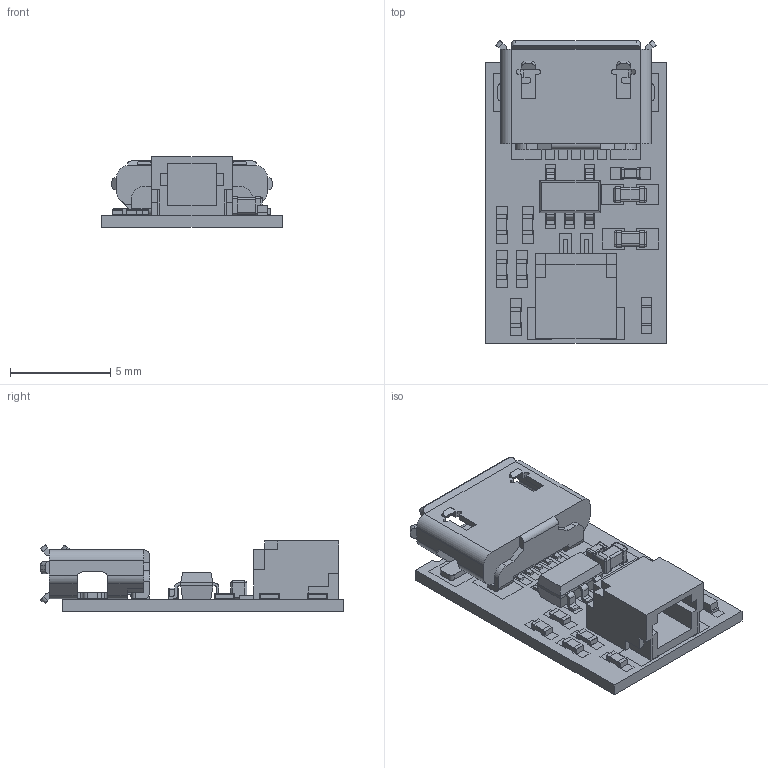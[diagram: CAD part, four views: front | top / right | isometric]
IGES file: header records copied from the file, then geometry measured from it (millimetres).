
Global section: file name: Filename.iges; native system: Open CASCADE 7.4; preprocessor: Open CASCADE IGES processor 7.4; date: 20200828.022145; units: millimetre
Bounding box: 9 x 15.07 x 3.5 mm (x, y, z)
Surface area: 1178.4 mm2 (no closed solid volume)
Topology: 0 solids, 0 shells, 1214 faces, 6360 edges, 8096 vertices
Faces by surface type: plane 974, revolution 240
